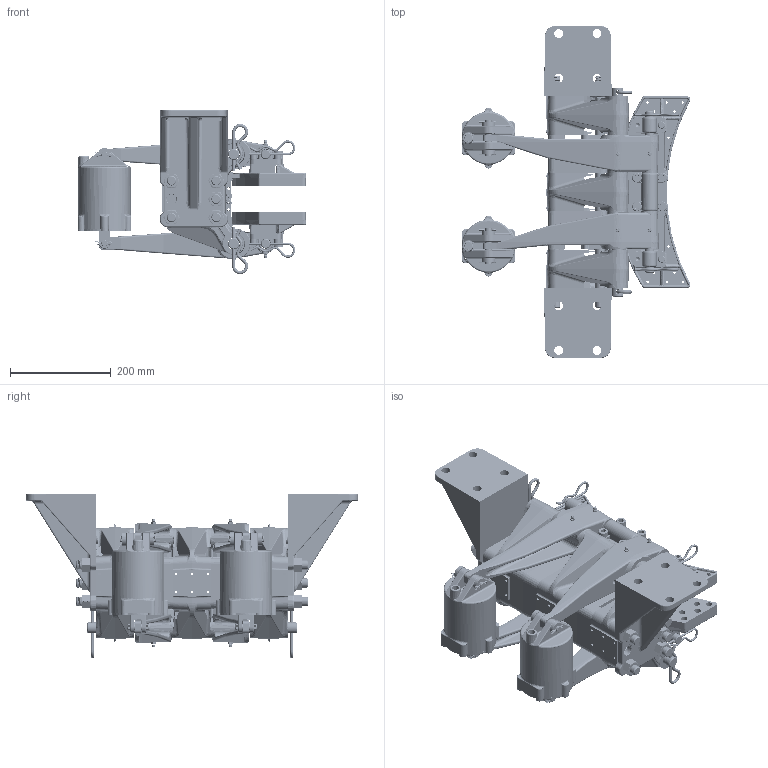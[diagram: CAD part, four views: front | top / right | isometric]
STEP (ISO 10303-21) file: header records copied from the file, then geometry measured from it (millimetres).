
FILE_DESCRIPTION (( 'STEP AP214' ), '1' );
FILE_NAME ('5027-H1W.STEP', '2020-07-28T16:03:39', ( '' ), ( '' ), 'SwSTEP 2.0', 'SolidWorks 2019', '' );
FILE_SCHEMA (( 'AUTOMOTIVE_DESIGN' ));
Length unit declared in the file: inch
Products named in the file (2): 5027-H1W
Bounding box: 454.85 x 660.65 x 326.84 mm (x, y, z)
Surface area: 1700576 mm2 (no closed solid volume)
Topology: 0 solids, 166 shells, 3720 faces, 11685 edges, 7874 vertices
Faces by surface type: cylinder 1329, plane 886, bspline 713, cone 469, torus 303, sphere 20
Entity records: 235836 total; most frequent: CARTESIAN_POINT 94391, ORIENTED_EDGE 19092, DIRECTION 17902, EDGE_CURVE 11628, VERTEX_POINT 7874, AXIS2_PLACEMENT_3D 7038, EDGE_LOOP 4278, CIRCLE 4029
